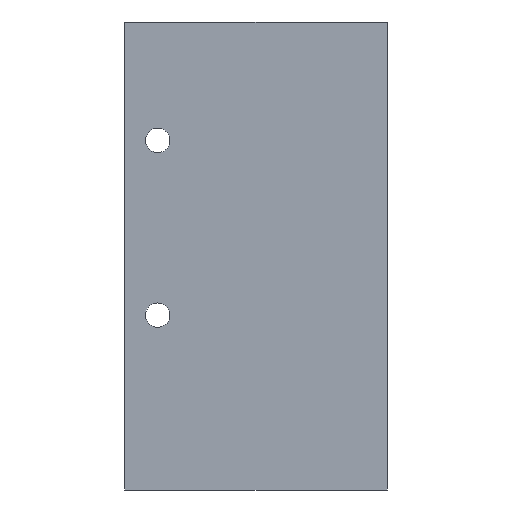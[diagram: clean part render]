
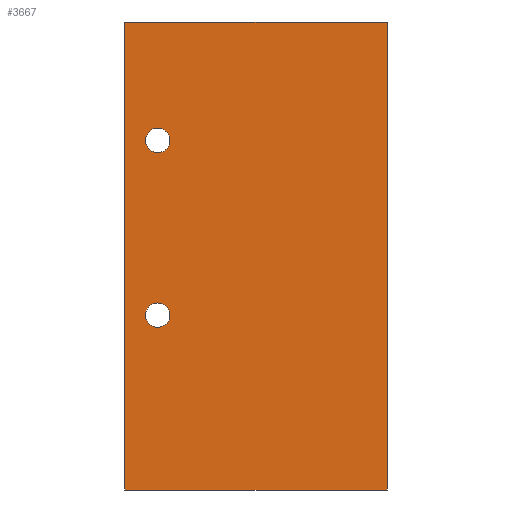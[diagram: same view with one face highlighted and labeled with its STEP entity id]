
A CAD part, front view. The second image highlights one B-rep face of the part: STEP entity #3667.
In plain terms, the highlighted planar face has unit normal (0, -1, 0).
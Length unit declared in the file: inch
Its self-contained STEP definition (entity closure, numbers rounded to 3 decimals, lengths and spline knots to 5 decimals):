
#183=CIRCLE('',#3885,0.14);
#185=CIRCLE('',#3888,0.14);
#403=FACE_BOUND('',#1009,.T.);
#404=FACE_BOUND('',#1010,.T.);
#405=FACE_BOUND('',#1011,.T.);
#1009=EDGE_LOOP('',(#2994));
#1010=EDGE_LOOP('',(#2995));
#1011=EDGE_LOOP('',(#2996,#2997,#2998,#2999));
#1353=LINE('',#6106,#1577);
#1355=LINE('',#6202,#1579);
#1359=LINE('',#6440,#1583);
#1361=LINE('',#6462,#1585);
#1577=VECTOR('',#4471,5.3498);
#1579=VECTOR('',#4547,5.3498);
#1583=VECTOR('',#4633,3.);
#1585=VECTOR('',#4661,3.);
#1770=VERTEX_POINT('',#6099);
#1773=VERTEX_POINT('',#6104);
#1795=VERTEX_POINT('',#6199);
#1796=VERTEX_POINT('',#6201);
#1808=VERTEX_POINT('',#6364);
#1810=VERTEX_POINT('',#6369);
#2182=EDGE_CURVE('',#1773,#1770,#1353,.T.);
#2204=EDGE_CURVE('',#1796,#1795,#1355,.T.);
#2219=EDGE_CURVE('',#1808,#1808,#183,.T.);
#2221=EDGE_CURVE('',#1810,#1810,#185,.T.);
#2235=EDGE_CURVE('',#1796,#1773,#1359,.T.);
#2244=EDGE_CURVE('',#1795,#1770,#1361,.T.);
#2994=ORIENTED_EDGE('',*,*,#2219,.T.);
#2995=ORIENTED_EDGE('',*,*,#2221,.T.);
#2996=ORIENTED_EDGE('',*,*,#2244,.T.);
#2997=ORIENTED_EDGE('',*,*,#2182,.F.);
#2998=ORIENTED_EDGE('',*,*,#2235,.F.);
#2999=ORIENTED_EDGE('',*,*,#2204,.T.);
#3320=PLANE('',#3956);
#3667=ADVANCED_FACE('',(#403,#404,#405),#3320,.T.);
#3885=AXIS2_PLACEMENT_3D('',#6365,#4580,#4581);
#3888=AXIS2_PLACEMENT_3D('',#6370,#4586,#4587);
#3956=AXIS2_PLACEMENT_3D('',#6509,#4726,#4727);
#4471=DIRECTION('',(0.,0.,1.));
#4547=DIRECTION('',(0.,0.,1.));
#4580=DIRECTION('center_axis',(0.,1.,0.));
#4581=DIRECTION('ref_axis',(1.,0.,0.));
#4586=DIRECTION('center_axis',(0.,1.,0.));
#4587=DIRECTION('ref_axis',(1.,0.,0.));
#4633=DIRECTION('',(-1.,0.,0.));
#4661=DIRECTION('',(-1.,0.,0.));
#4726=DIRECTION('center_axis',(0.,-1.,0.));
#4727=DIRECTION('ref_axis',(0.,0.,-1.));
#6099=CARTESIAN_POINT('',(-1.57,-1.,5.3498));
#6104=CARTESIAN_POINT('',(-1.57,-1.,0.));
#6106=CARTESIAN_POINT('',(-1.57,-1.,0.));
#6199=CARTESIAN_POINT('',(1.43,-1.,5.3498));
#6201=CARTESIAN_POINT('',(1.43,-1.,0.));
#6202=CARTESIAN_POINT('',(1.43,-1.,0.));
#6364=CARTESIAN_POINT('',(-1.055,-1.,4.));
#6365=CARTESIAN_POINT('Origin',(-1.195,-1.,4.));
#6369=CARTESIAN_POINT('',(-1.055,-1.,2.));
#6370=CARTESIAN_POINT('Origin',(-1.195,-1.,2.));
#6440=CARTESIAN_POINT('',(1.43,-1.,0.));
#6462=CARTESIAN_POINT('',(1.43,-1.,5.3498));
#6509=CARTESIAN_POINT('Origin',(1.43,-1.,0.));
